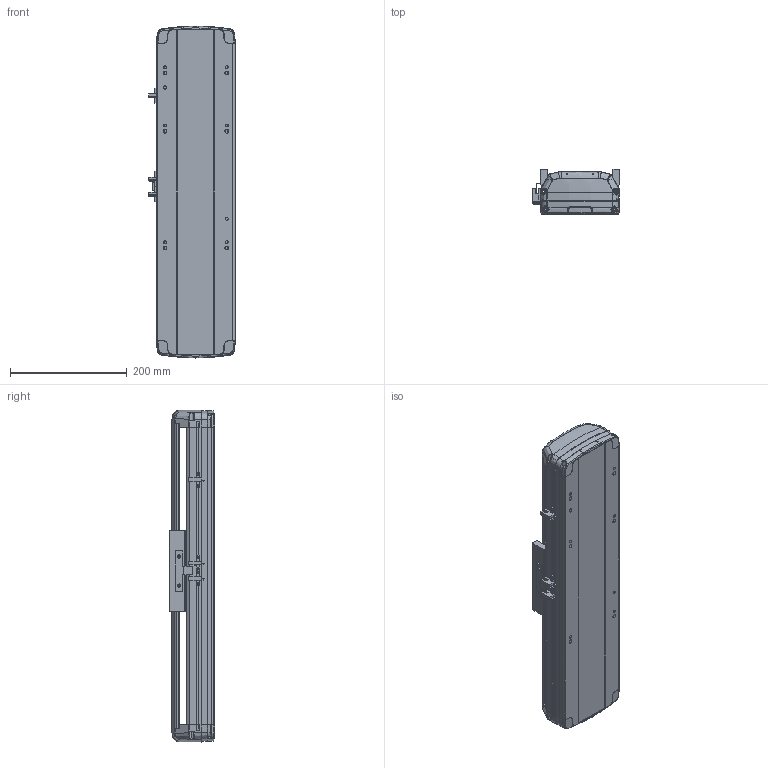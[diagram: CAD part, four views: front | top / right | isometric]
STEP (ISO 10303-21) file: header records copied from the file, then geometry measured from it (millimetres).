
FILE_DESCRIPTION (( 'STEP AP214' ), '1' );
FILE_NAME ('RTH14-XX-150-B-M20B-C4.STEP', '2025-10-24T08:26:32', ( 'Microsoft' ), ( 'Microsoft' ), 'SwSTEP 2.0', 'SolidWorks 2018', '' );
FILE_SCHEMA (( 'AUTOMOTIVE_DESIGN' ));
Length unit declared in the file: millimetre
Products named in the file (7): N_RTH14-B-011PB菁釱^RTH14-XX-XX-B-M20B-C4; N_RTH13-L-012感应片（外置）^RTH14-XX-XX-B-M20B-C4; N_RTH14-B-007B奻裔^RTH14-XX-XX-B-M20B-C4; N_OMRON EE-SX672 传感器^RTH14-XX-XX-B-M20B-C4; RTH14-XX-150-B-M20B-C4; N_RTH14-R-004-SFSR16賑釱^RTH14-XX-XX-B-M20B-C4; N_RTH14-GY-001P^RTH14-XX-XX-B-M20B-C4
Assembly tree (9 placements, depth 2):
  RTH14-XX-150-B-M20B-C4
    N_RTH14-B-011PB菁釱^RTH14-XX-XX-B-M20B-C4
    N_RTH14-B-007B奻裔^RTH14-XX-XX-B-M20B-C4
    N_RTH13-L-012感应片（外置）^RTH14-XX-XX-B-M20B-C4
    N_OMRON EE-SX672 传感器^RTH14-XX-XX-B-M20B-C4  x3
    N_RTH14-R-004-SFSR16賑釱^RTH14-XX-XX-B-M20B-C4
    N_RTH14-GY-001P^RTH14-XX-XX-B-M20B-C4  x2
Bounding box: 148.5 x 78.03 x 568.99 mm (x, y, z)
Volume: 2517327.8 mm3; surface area: 596047.5 mm2
Topology: 9 solids, 9 shells, 1882 faces, 5296 edges, 3446 vertices
Faces by surface type: plane 971, bspline 450, cylinder 397, cone 56, torus 8
Entity records: 45288 total; most frequent: CARTESIAN_POINT 20538, ORIENTED_EDGE 5608, DIRECTION 4047, EDGE_CURVE 2804, VERTEX_POINT 1832, LINE 1595, VECTOR 1595, AXIS2_PLACEMENT_3D 1226
